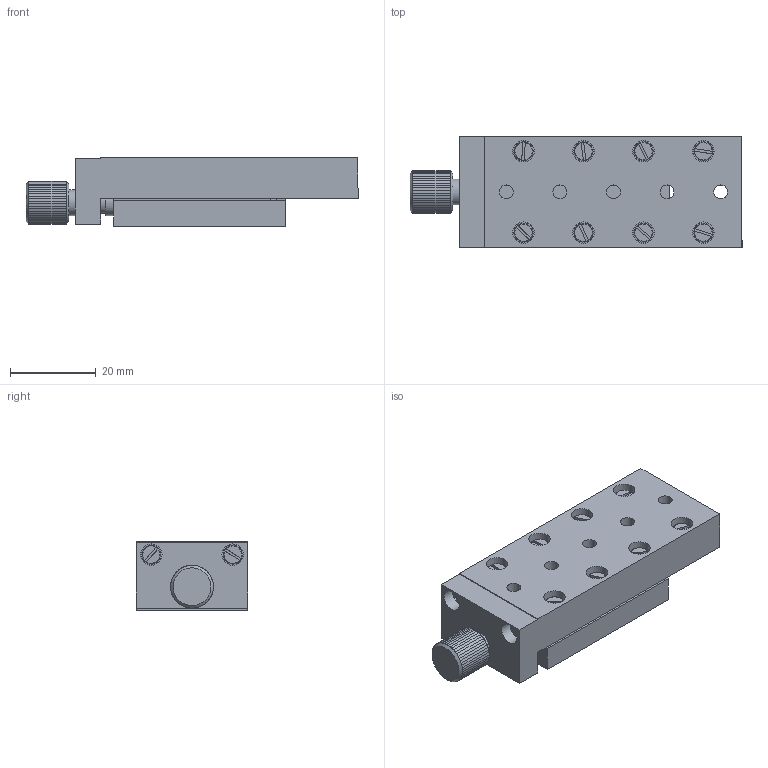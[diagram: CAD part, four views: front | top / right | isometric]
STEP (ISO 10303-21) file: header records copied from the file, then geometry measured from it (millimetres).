
FILE_DESCRIPTION((''),'2;1');
FILE_NAME('D:\Darius\Schemos\07\7T34-20\step\7T34-20.STEP','2013-02-19T14:56:27',('Darius'),(''),'Autodesk Inventor 2013','Autodesk Inventor 2013','');
FILE_SCHEMA(('AUTOMOTIVE_DESIGN { 1 0 10303 214 1 1 1 1 }'));
Length unit declared in the file: millimetre
Products named in the file (1): 7T34-20
Bounding box: 77.5 x 26 x 16 mm (x, y, z)
Volume: 21348.4 mm3; surface area: 13168.7 mm2
Topology: 1 solids, 15 shells, 435 faces, 914 edges, 536 vertices
Faces by surface type: plane 297, cylinder 77, cone 37, torus 24
Full cylindrical faces by diameter (mm): 2.013 x2, 2.256 x12, 2.459 x6, 2.5 x12, 2.6 x2, 2.9 x8, 3 x4, 3.242 x9, 5 x13, 5.4 x1, 6 x5, 6.7 x1
Entity records: 11169 total; most frequent: CARTESIAN_POINT 2114, DIRECTION 1932, ORIENTED_EDGE 1512, AXIS2_PLACEMENT_3D 788, EDGE_CURVE 756, EDGE_LOOP 624, VERTEX_POINT 490, FACE_OUTER_BOUND 435
